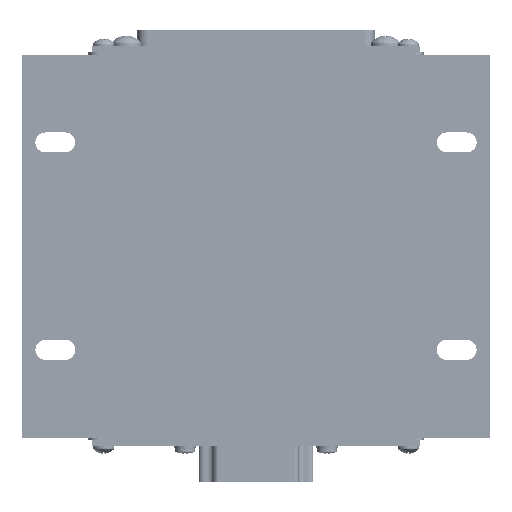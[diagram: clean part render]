
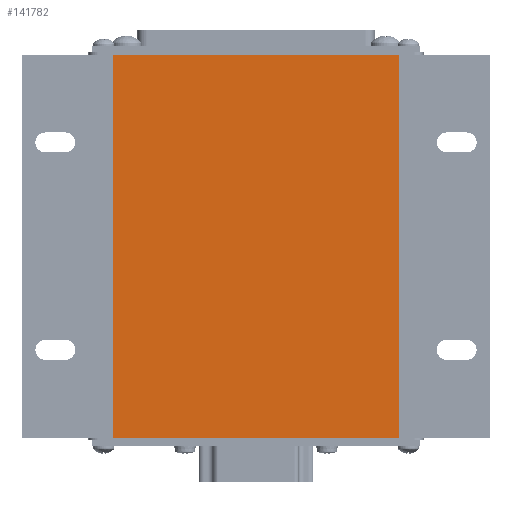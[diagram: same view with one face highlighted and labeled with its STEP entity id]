
A CAD part, front view. The second image highlights one B-rep face of the part: STEP entity #141782.
In plain terms, the highlighted planar face has unit normal (0, -1, 0).
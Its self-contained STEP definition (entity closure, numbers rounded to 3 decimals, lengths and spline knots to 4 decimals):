
#15723=FACE_OUTER_BOUND('',#24588,.T.);
#24588=EDGE_LOOP('',(#122341,#122342,#122343,#122344));
#39900=LINE('',#247424,#53098);
#39901=LINE('',#247427,#53099);
#39902=LINE('',#247429,#53100);
#39903=LINE('',#247430,#53101);
#53098=VECTOR('',#176576,4.8);
#53099=VECTOR('',#176579,3.5827);
#53100=VECTOR('',#176580,3.5827);
#53101=VECTOR('',#176581,4.8);
#65783=VERTEX_POINT('',#247416);
#65786=VERTEX_POINT('',#247422);
#65787=VERTEX_POINT('',#247426);
#65788=VERTEX_POINT('',#247428);
#84765=EDGE_CURVE('',#65786,#65783,#39900,.T.);
#84766=EDGE_CURVE('',#65787,#65783,#39901,.T.);
#84767=EDGE_CURVE('',#65786,#65788,#39902,.T.);
#84768=EDGE_CURVE('',#65788,#65787,#39903,.T.);
#122341=ORIENTED_EDGE('',*,*,#84766,.T.);
#122342=ORIENTED_EDGE('',*,*,#84765,.F.);
#122343=ORIENTED_EDGE('',*,*,#84767,.T.);
#122344=ORIENTED_EDGE('',*,*,#84768,.T.);
#128616=PLANE('',#149093);
#141782=ADVANCED_FACE('',(#15723),#128616,.T.);
#149093=AXIS2_PLACEMENT_3D('',#247425,#176577,#176578);
#176576=DIRECTION('',(0.,0.,-1.));
#176577=DIRECTION('center_axis',(0.,-1.,0.));
#176578=DIRECTION('ref_axis',(0.,0.,1.));
#176579=DIRECTION('',(1.,0.,0.));
#176580=DIRECTION('',(-1.,0.,0.));
#176581=DIRECTION('',(0.,0.,-1.));
#247416=CARTESIAN_POINT('',(1.7913,-0.486,-2.395));
#247422=CARTESIAN_POINT('',(1.7913,-0.486,2.405));
#247424=CARTESIAN_POINT('',(1.7913,-0.486,0.005));
#247425=CARTESIAN_POINT('Origin',(-1.7914,-0.486,
0.005));
#247426=CARTESIAN_POINT('',(-1.7914,-0.486,-2.395));
#247427=CARTESIAN_POINT('',(1.7913,-0.486,-2.395));
#247428=CARTESIAN_POINT('',(-1.7914,-0.486,2.405));
#247429=CARTESIAN_POINT('',(1.7913,-0.486,2.405));
#247430=CARTESIAN_POINT('',(-1.7914,-0.486,0.005));
